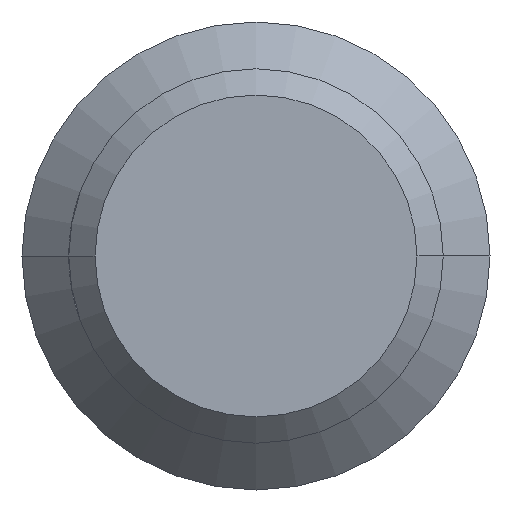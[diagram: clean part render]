
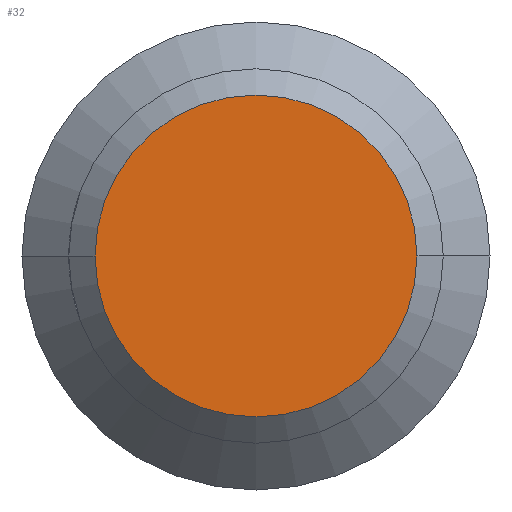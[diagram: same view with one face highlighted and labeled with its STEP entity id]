
A CAD part, left-side view. The second image highlights one B-rep face of the part: STEP entity #32.
In plain terms, the highlighted planar face has unit normal (-1, 0, 0).
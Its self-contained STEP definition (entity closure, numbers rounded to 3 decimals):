
#17 = VERTEX_POINT ( 'NONE', #276 ) ;
#32 = ADVANCED_FACE ( 'NONE', ( #368 ), #369, .T. ) ;
#34 = VERTEX_POINT ( 'NONE', #429 ) ;
#47 = EDGE_CURVE ( 'NONE', #34, #17, #571, .T. ) ;
#66 = ORIENTED_EDGE ( 'NONE', *, *, #47, .T. ) ;
#115 = EDGE_CURVE ( 'NONE', #17, #34, #270, .T. ) ;
#228 = ORIENTED_EDGE ( 'NONE', *, *, #115, .T. ) ;
#270 = CIRCLE ( 'NONE', #271, 8.6 ) ;
#271 = AXIS2_PLACEMENT_3D ( 'NONE', #272, #273, #274 ) ;
#272 = CARTESIAN_POINT ( 'NONE',  ( -230., 0., 0. ) ) ;
#273 = DIRECTION ( 'NONE',  ( -1., 0., 0. ) ) ;
#274 = DIRECTION ( 'NONE',  ( 0., -1., 0. ) ) ;
#276 = CARTESIAN_POINT ( 'NONE',  ( -230., 8.6, 0. ) ) ;
#368 = FACE_OUTER_BOUND ( 'NONE', #719, .T. ) ;
#369 = PLANE ( 'NONE',  #370 ) ;
#370 = AXIS2_PLACEMENT_3D ( 'NONE', #371, #372, #373 ) ;
#371 = CARTESIAN_POINT ( 'NONE',  ( -230., 0., 0. ) ) ;
#372 = DIRECTION ( 'NONE',  ( -1., 0., 0. ) ) ;
#373 = DIRECTION ( 'NONE',  ( 0., -1., 0. ) ) ;
#429 = CARTESIAN_POINT ( 'NONE',  ( -230., -8.6, 0. ) ) ;
#571 = CIRCLE ( 'NONE', #572, 8.6 ) ;
#572 = AXIS2_PLACEMENT_3D ( 'NONE', #573, #574, #575 ) ;
#573 = CARTESIAN_POINT ( 'NONE',  ( -230., 0., 0. ) ) ;
#574 = DIRECTION ( 'NONE',  ( -1., 0., 0. ) ) ;
#575 = DIRECTION ( 'NONE',  ( 0., -1., 0. ) ) ;
#719 = EDGE_LOOP ( 'NONE', ( #228, #66 ) ) ;
